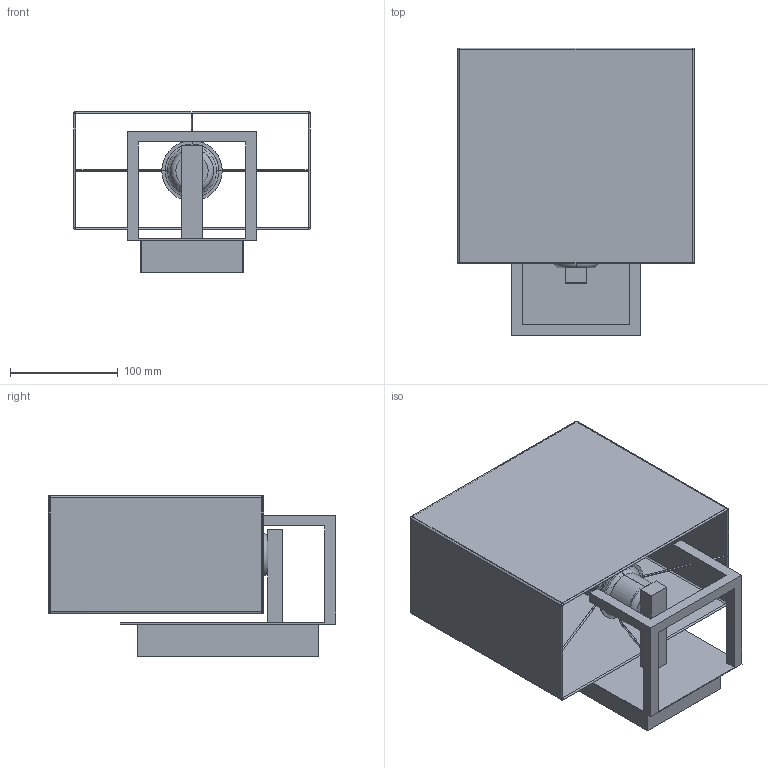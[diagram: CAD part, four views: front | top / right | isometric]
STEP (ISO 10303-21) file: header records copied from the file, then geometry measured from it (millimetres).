
FILE_DESCRIPTION(/* description */ (''),/* implementation_level */ '2;1');
FILE_NAME(/* name */ 'C:\Users\FrancoSartori\Documents\FARO\01_En Proceso\000_SOLICITUD INFO SIN PROCESAR\00_VESPER\03_Publicación\29980.stp',/* time_stamp */ '2022-05-18T12:29:57+02:00',/* author */ ('FrancoSartori'),/* organization */ (''),/* preprocessor_version */ 'ST-DEVELOPER v19',/* originating_system */ 'AutoCAD Mechanical',/* authorisation */ '');
FILE_SCHEMA (('AUTOMOTIVE_DESIGN { 1 0 10303 214 3 1 1 }'));
Length unit declared in the file: millimetre
Products named in the file (3): Product; VESPER_W_ - structure-574824-Export; VESPER_W_SHADE - 2P0111 White textile shade-575703-Export
Assembly tree (2 placements, depth 2):
  Product
    VESPER_W_ - structure-574824-Export
    VESPER_W_SHADE - 2P0111 White textile shade-575703-Export
Bounding box: 220 x 266.98 x 149.4 mm (x, y, z)
Volume: 261771.8 mm3; surface area: 430794.5 mm2
Topology: 6 solids, 10 shells, 243 faces, 531 edges, 296 vertices
Faces by surface type: plane 121, cylinder 98, torus 24
Entity records: 9330 total; most frequent: CARTESIAN_POINT 4085, DIRECTION 1065, ORIENTED_EDGE 1046, EDGE_CURVE 531, AXIS2_PLACEMENT_3D 384, LINE 297, VECTOR 297, VERTEX_POINT 296
